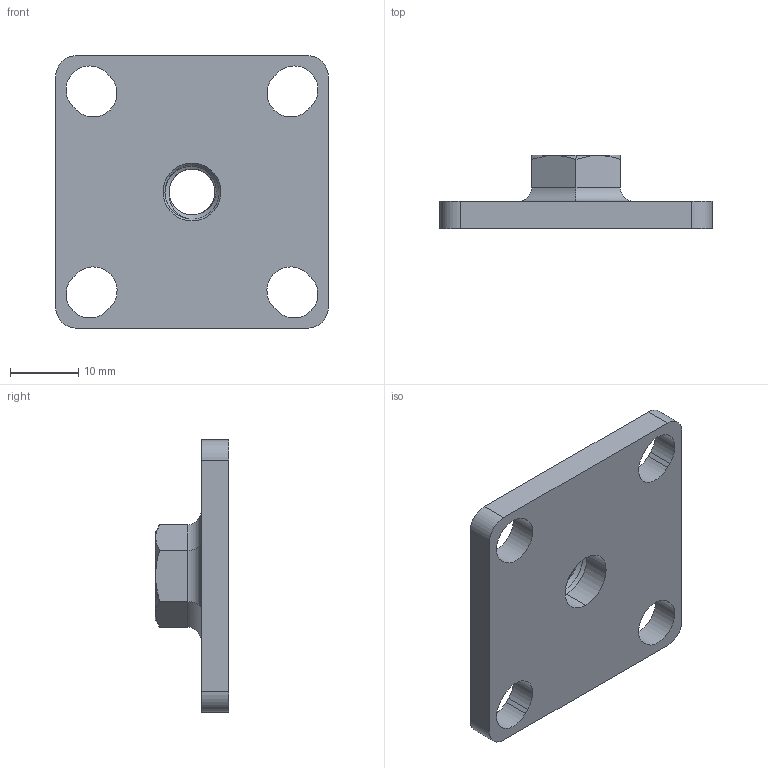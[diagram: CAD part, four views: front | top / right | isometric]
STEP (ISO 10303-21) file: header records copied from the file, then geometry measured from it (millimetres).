
FILE_DESCRIPTION (( 'STEP AP214' ), '1' );
FILE_NAME ('7031-Ñòàëü-Ì8.STEP', '2022-09-23T10:03:55', ( '' ), ( '' ), 'SwSTEP 2.0', 'SolidWorks 2020', '' );
FILE_SCHEMA (( 'AUTOMOTIVE_DESIGN' ));
Length unit declared in the file: millimetre
Products named in the file (1): 7031-Ñòàëü-Ì8
Bounding box: 40 x 10.8 x 40.01 mm (x, y, z)
Volume: 6222.8 mm3; surface area: 4712 mm2
Topology: 12 solids, 12 shells, 176 faces, 435 edges, 285 vertices
Faces by surface type: plane 95, bspline 41, cylinder 34, cone 6
Entity records: 11751 total; most frequent: CARTESIAN_POINT 6609, ORIENTED_EDGE 870, DIRECTION 632, EDGE_CURVE 435, VERTEX_POINT 285, LINE 272, VECTOR 272, EDGE_LOOP 188
